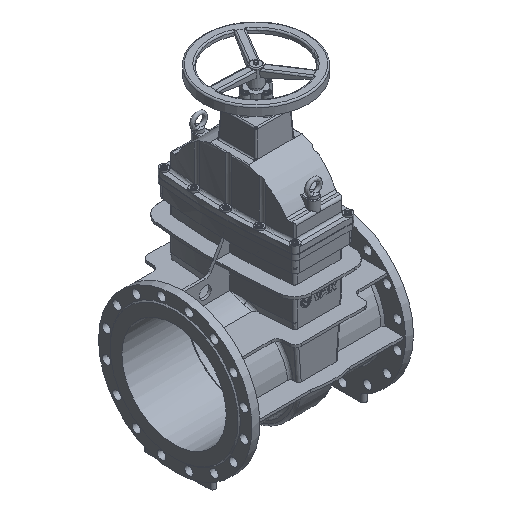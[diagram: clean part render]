
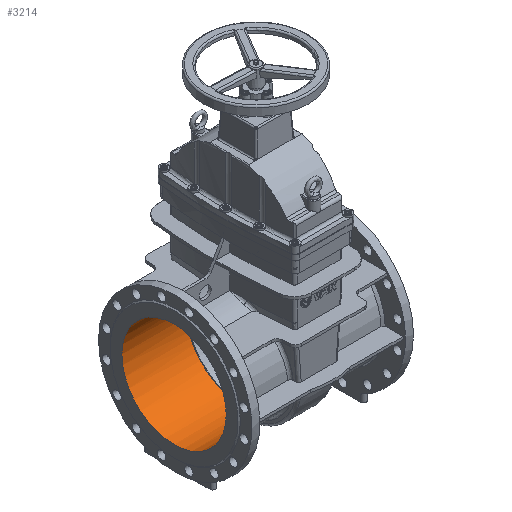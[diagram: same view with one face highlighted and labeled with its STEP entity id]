
A CAD part, isometric view. The second image highlights one B-rep face of the part: STEP entity #3214.
In plain terms, the highlighted cylindrical face has radius 175 mm (diameter 350 mm), a full revolution.
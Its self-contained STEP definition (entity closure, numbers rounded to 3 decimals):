
#3214=ADVANCED_FACE('',(#9991,#9993),#9995,.F.);
#9991=FACE_OUTER_BOUND('',#9992,.T.);
#9992=EDGE_LOOP('',(#28853));
#9993=FACE_OUTER_BOUND('',#9994,.T.);
#9994=EDGE_LOOP('',(#28854));
#9995=CYLINDRICAL_SURFACE('',#9996,175.);
#9996=AXIS2_PLACEMENT_3D('',#9997,#9998,#9999);
#9997=CARTESIAN_POINT('',(244.5,0.,0.));
#9998=DIRECTION('',(1.,0.,0.));
#9999=DIRECTION('',(0.,1.,0.));
#28853=ORIENTED_EDGE('',*,*,#33374,.T.);
#28854=ORIENTED_EDGE('',*,*,#32909,.F.);
#32909=EDGE_CURVE('',#36203,#36203,#36204,.F.);
#33374=EDGE_CURVE('',#36889,#36889,#36890,.T.);
#36203=VERTEX_POINT('',#47458);
#36204=CIRCLE('',#47459,175.);
#36889=VERTEX_POINT('',#49113);
#36890=(BOUNDED_CURVE()B_SPLINE_CURVE(3,
(#49114,#49115,#49116,#49117,#49118,#49119,#49120),
.UNSPECIFIED.,.T.,.F.)B_SPLINE_CURVE_WITH_KNOTS((4,3,4),
(0.,0.5,1.),
.UNSPECIFIED.)CURVE()GEOMETRIC_REPRESENTATION_ITEM()RATIONAL_B_SPLINE_CURVE((1.,
0.333,0.333,1.,0.333,0.333,1.))
REPRESENTATION_ITEM(''));
#47458=CARTESIAN_POINT('',(-275.,-175.,0.));
#47459=AXIS2_PLACEMENT_3D('',#47460,#47461,#47462);
#47460=CARTESIAN_POINT('',(-275.,0.,0.));
#47461=DIRECTION('',(-1.,0.,0.));
#47462=DIRECTION('',(0.,-1.,0.));
#49113=CARTESIAN_POINT('',(-57.015,-175.,0.));
#49114=CARTESIAN_POINT('',(-57.015,-175.,0.));
#49115=CARTESIAN_POINT('',(-38.672,-175.,-350.));
#49116=CARTESIAN_POINT('',(-38.672,175.,-350.));
#49117=CARTESIAN_POINT('',(-57.015,175.,0.));
#49118=CARTESIAN_POINT('',(-75.357,175.,350.));
#49119=CARTESIAN_POINT('',(-75.357,-175.,350.));
#49120=CARTESIAN_POINT('',(-57.015,-175.,0.));
